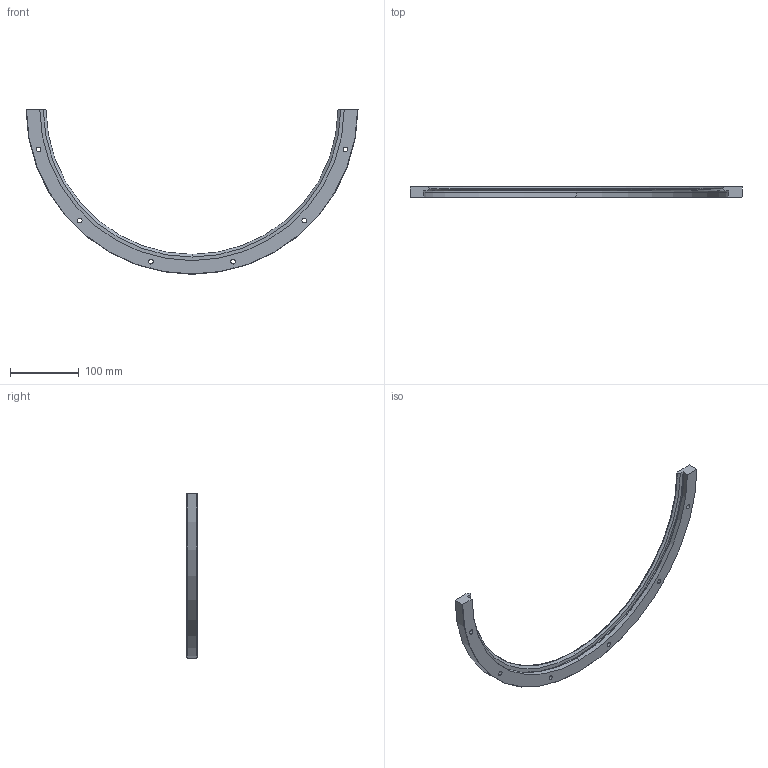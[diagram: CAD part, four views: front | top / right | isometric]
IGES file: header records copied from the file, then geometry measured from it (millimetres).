
Start section: 3D InterOp IGES (v. 2020 1.0.1), Spatial Corp. Copyright (c) 1999-2017.
Global section: file name: rim_482_r180.igs; native system: Spatial Corp.; preprocessor: 3D InterOp ACIS/IGES; author: TraceParts; organization: TraceParts S.A.; date: 20220624.062628; units: millimetre
Bounding box: 482.48 x 15.5 x 239.25 mm (x, y, z)
Surface area: 63866.8 mm2 (no closed solid volume)
Topology: 0 solids, 0 shells, 54 faces, 266 edges, 266 vertices
Faces by surface type: revolution 42, extrusion 12
